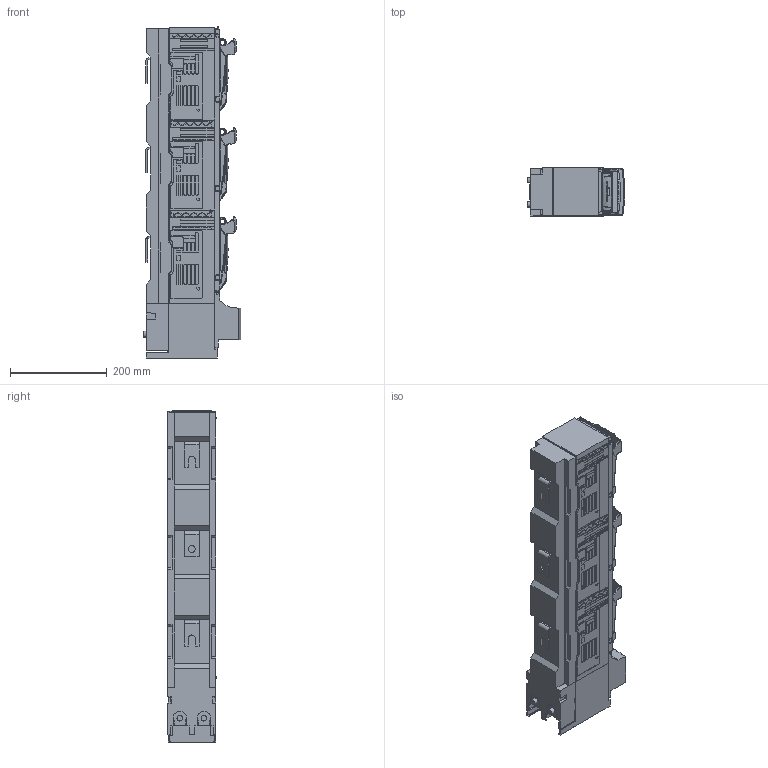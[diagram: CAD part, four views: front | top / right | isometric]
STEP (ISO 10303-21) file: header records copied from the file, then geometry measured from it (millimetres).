
FILE_DESCRIPTION(/* description */ (''),/* implementation_level */ '2;1');
FILE_NAME(/* name */ 'smartARS 2-1M pro.stp',/* time_stamp */ '2018-07-16T09:43:06+02:00',/* author */ (''),/* organization */ (''),/* preprocessor_version */ 'ST-DEVELOPER v16',/* originating_system */ 'SIEMENS PLM Software NX 10.0',/* authorisation */ '');
FILE_SCHEMA (('AUTOMOTIVE_DESIGN { 1 0 10303 214 3 1 1 1 }'));
Products named in the file (1): 710_0AD4EC05y3hv
Bounding box: 201.36 x 99.58 x 687.47 mm (x, y, z)
Volume: 8718420 mm3; surface area: 767079.3 mm2
Topology: 1 solids, 13 shells, 6228 faces, 16378 edges, 10243 vertices
Faces by surface type: plane 2605, bspline 1908, cylinder 955, extrusion 395, torus 136, cone 115, sphere 114
Full cylindrical faces by diameter (mm): 3.5 x5, 3.7 x4, 9.6 x2, 11.701 x6, 14 x1
Entity records: 287956 total; most frequent: CARTESIAN_POINT 152712, ORIENTED_EDGE 32376, DIRECTION 21710, EDGE_CURVE 16188, VERTEX_POINT 10219, VECTOR 7802, LINE 7407, AXIS2_PLACEMENT_3D 6954
